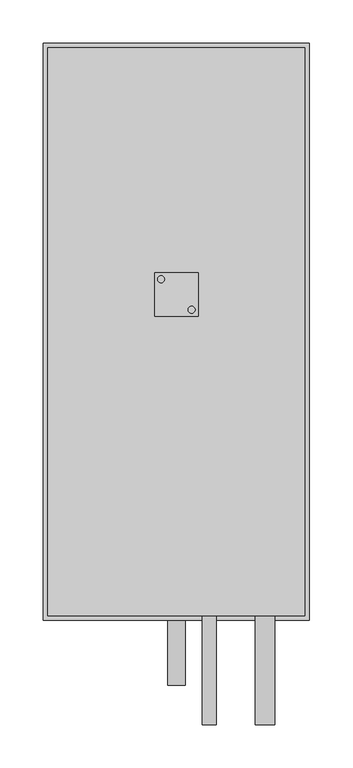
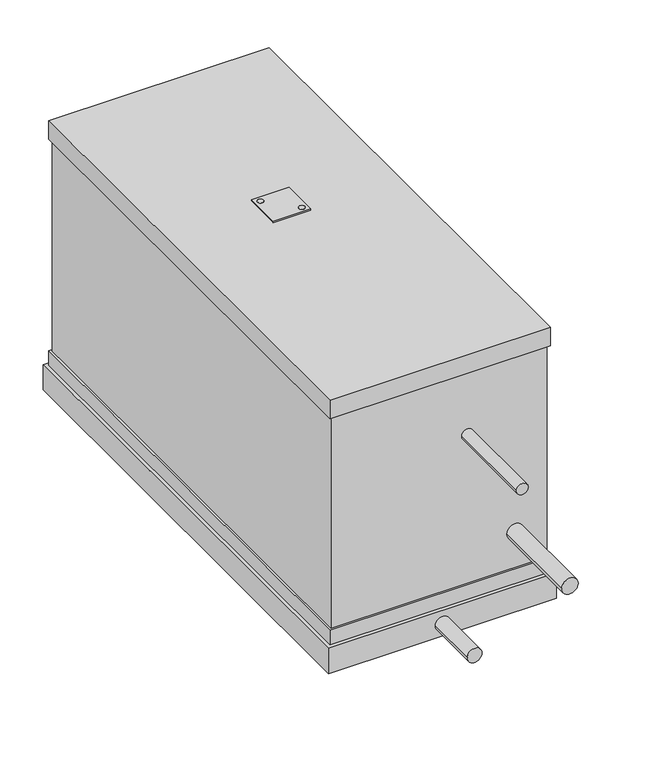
"""IFC4 building model written with IfcOpenShell, lengths in millimetres: proxy geometry, KORF_Воздухоохладитель_Фреоновый_FLO_Левый : FLO 50-30."""

from ifc_helpers import new_model, si_unit, point, frame, frame_2d, origin, place, context, project, spatial, polyline, circle_curve, trimmed, segment, composite_curve, outline, extrude, faceted_brep, source, transform, mapped, element, save


def mechanical_equipment_bd0e9997(model_context):
    return source(origin(), model_context, "Body", "SolidModel", [
        extrude(outline(composite_curve([segment(trimmed(circle_curve(frame_2d((170.5727066, -17.5745746)), 4.0), [point((174.5727066, -17.5745746))], [point((166.5727066, -17.5745746))], False, "CARTESIAN"), True, "CONTINUOUS"), segment(trimmed(circle_curve(frame_2d((170.5727066, -17.5745746)), 4.0), [point((166.5727066, -17.5745746))], [point((174.5727066, -17.5745746))], False, "CARTESIAN"), True, "CONTINUOUS")], self_intersect=False)), frame((0.0, 0.0, 176.0), z_axis=(0.0, 0.0, 1.0), x_axis=(1.0, 0.0, 0.0)), (0.0, 0.0, 1.0), 2.0),
        extrude(outline(composite_curve([segment(trimmed(circle_curve(frame_2d((135.4272934, 17.5745746)), 4.0), [point((131.4272934, 17.5745746))], [point((139.4272934, 17.5745746))], False, "CARTESIAN"), True, "CONTINUOUS"), segment(trimmed(circle_curve(frame_2d((135.4272934, 17.5745746)), 4.0), [point((139.4272934, 17.5745746))], [point((131.4272934, 17.5745746))], False, "CARTESIAN"), True, "CONTINUOUS")], self_intersect=False)), frame((0.0, 0.0, 176.0), z_axis=(0.0, 0.0, 1.0), x_axis=(1.0, 0.0, 0.0)), (0.0, 0.0, 1.0), 2.0),
        extrude(outline(polyline([(128.0, -25.0), (128.0, 25.0), (178.0, 25.0), (178.0, -25.0), (128.0, -25.0)]), holes=[composite_curve([segment(trimmed(circle_curve(frame_2d((170.5727066, -17.5745746)), 4.0), [point((174.5727066, -17.5745746))], [point((166.5727066, -17.5745746))], True, "CARTESIAN"), True, "CONTINUOUS"), segment(trimmed(circle_curve(frame_2d((170.5727066, -17.5745746)), 4.0), [point((166.5727066, -17.5745746))], [point((174.5727066, -17.5745746))], True, "CARTESIAN"), True, "CONTINUOUS")], self_intersect=False), composite_curve([segment(trimmed(circle_curve(frame_2d((135.4272934, 17.5745746)), 4.0), [point((131.4272934, 17.5745746))], [point((139.4272934, 17.5745746))], True, "CARTESIAN"), True, "CONTINUOUS"), segment(trimmed(circle_curve(frame_2d((135.4272934, 17.5745746)), 4.0), [point((139.4272934, 17.5745746))], [point((131.4272934, 17.5745746))], True, "CARTESIAN"), True, "CONTINUOUS")], self_intersect=False)]), frame((0.0, 0.0, 176.0), z_axis=(0.0, 0.0, 1.0), x_axis=(1.0, 0.0, 0.0)), (0.0, 0.0, 1.0), 2.0),
        faceted_brep([(306.0, -375.0, -171.0), (306.0, -375.0, -207.0), (306.0, 289.0, -207.0), (306.0, 289.0, -171.0), (0.0, -375.0, -171.0), (0.0, 289.0, -171.0), (0.0, 289.0, -207.0), (0.0, -375.0, -207.0), (301.0, 284.0, -171.0), (301.0, -370.0, -171.0), (5.0, -370.0, -171.0), (5.0, 284.0, -171.0), (298.0, -367.0, 150.0), (298.0, -367.0, -150.0), (298.0, -250.0, -150.0), (298.0, 250.0, -150.0), (298.0, 281.0, -150.0), (298.0, 281.0, 150.0), (298.0, 250.0, 150.0), (298.0, -250.0, 150.0), (8.0, 281.0, 150.0), (8.0, 281.0, -150.0), (8.0, 250.0, -150.0), (8.0, -250.0, -150.0), (8.0, -367.0, -150.0), (8.0, -367.0, 150.0), (8.0, -250.0, 150.0), (8.0, 250.0, 150.0), (301.0, -370.0, 150.0), (301.0, 284.0, 150.0), (301.0, 284.0, 176.0), (301.0, -370.0, 176.0), (301.0, -370.0, -150.0), (301.0, 284.0, -150.0), (5.0, -370.0, 150.0), (5.0, -370.0, 176.0), (5.0, 284.0, 176.0), (5.0, 284.0, 150.0), (5.0, -370.0, -150.0), (5.0, 284.0, -150.0)], [[[0, 1, 2, 3]], [[4, 5, 6, 7]], [[1, 0, 4, 7]], [[2, 1, 7, 6]], [[3, 2, 6, 5]], [[0, 3, 5, 4], [8, 9, 10, 11]], [[12, 13, 14, 15, 16, 17, 18, 19]], [[20, 21, 22, 23, 24, 25, 26, 27]], [[13, 12, 25, 24]], [[17, 16, 21, 20]], [[28, 29, 30, 31]], [[32, 9, 8, 33]], [[34, 35, 36, 37]], [[38, 39, 11, 10]], [[29, 28, 34, 37], [12, 19, 18, 17, 20, 27, 26, 25]], [[30, 29, 37, 36]], [[31, 30, 36, 35]], [[28, 31, 35, 34]], [[9, 32, 38, 10]], [[33, 8, 11, 39]], [[32, 33, 39, 38], [14, 13, 24, 23, 22, 21, 16, 15]]]),
        extrude(outline(composite_curve([segment(trimmed(circle_curve(frame_2d((-99.0, 255.0)), 11.11), [point((-99.0, 243.89))], [point((-99.0, 266.11))], False, "CARTESIAN"), True, "CONTINUOUS"), segment(trimmed(circle_curve(frame_2d((-99.0, 255.0)), 11.11), [point((-99.0, 266.11))], [point((-99.0, 243.89))], False, "CARTESIAN"), True, "CONTINUOUS")], self_intersect=False)), frame((0.0, -495.0, 0.0), z_axis=(0.0, 1.0, 0.0), x_axis=(0.0, 0.0, 1.0)), (0.0, 0.0, 1.0), 128.0),
        extrude(outline(composite_curve([segment(trimmed(circle_curve(frame_2d((61.0, 191.0)), 7.94), [point((61.0, 183.06))], [point((61.0, 198.94))], False, "CARTESIAN"), True, "CONTINUOUS"), segment(trimmed(circle_curve(frame_2d((61.0, 191.0)), 7.94), [point((61.0, 198.94))], [point((61.0, 183.06))], False, "CARTESIAN"), True, "CONTINUOUS")], self_intersect=False)), frame((0.0, -495.0, 0.0), z_axis=(0.0, 1.0, 0.0), x_axis=(0.0, 0.0, 1.0)), (0.0, 0.0, 1.0), 128.0),
        extrude(outline(composite_curve([segment(trimmed(circle_curve(frame_2d((-189.0, 153.0)), 10.0), [point((-189.0, 143.0))], [point((-189.0, 163.0))], False, "CARTESIAN"), True, "CONTINUOUS"), segment(trimmed(circle_curve(frame_2d((-189.0, 153.0)), 10.0), [point((-189.0, 163.0))], [point((-189.0, 143.0))], False, "CARTESIAN"), True, "CONTINUOUS")], self_intersect=False)), frame((0.0, -450.0, 0.0), z_axis=(0.0, 1.0, 0.0), x_axis=(0.0, 0.0, 1.0)), (0.0, 0.0, 1.0), 75.0),
    ])


if __name__ == "__main__":
    model = new_model("IFC4")
    model_context = context("Model", 3, world=origin())
    ifc_project = project(units=[si_unit("LENGTHUNIT", "METRE", prefix="MILLI")], contexts=[model_context])
    site = spatial("IfcSite", under=ifc_project)
    building = spatial("IfcBuilding", under=site)
    placement = place(None, origin())
    mechanical_equipment_shape = mechanical_equipment_bd0e9997(model_context)
    element("IfcBuildingElementProxy", 1, Name="KORF_Воздухоохладитель_Фреоновый_FLO_Левый : FLO 50-30", ObjectType="KORF_Воздухоохладитель_Фреоновый_FLO_Левый : FLO 50-30", at=placement, inside=building, context=model_context, shape_type="MappedRepresentation", body=[
        mapped(mechanical_equipment_shape, transform((0.0, 0.0, 0.0), x_axis=(1.0, 0.0, 0.0), y_axis=(0.0, 1.0, 0.0), z_axis=(0.0, 0.0, 1.0))),
    ])
    save(model, "model.ifc")
